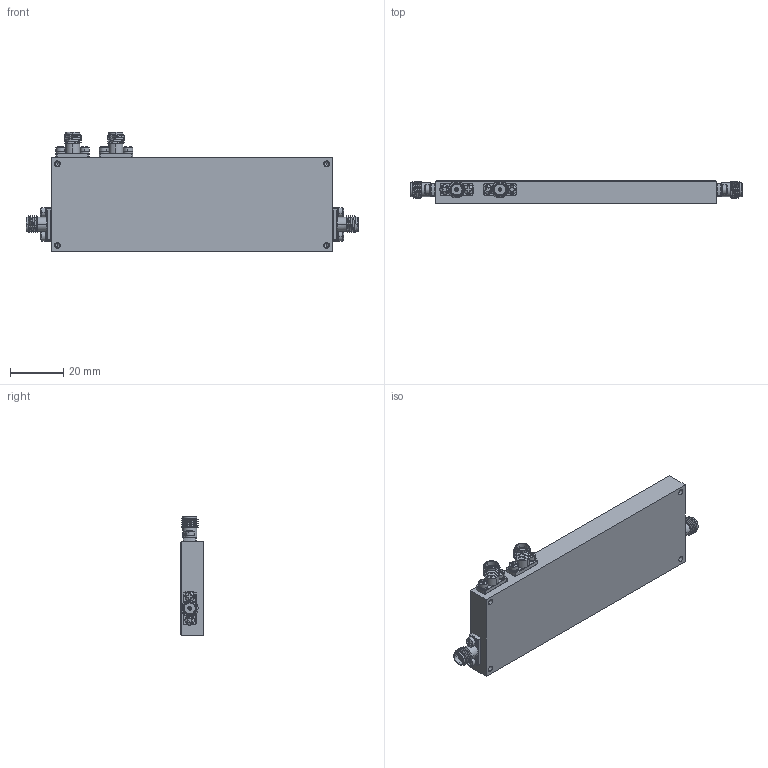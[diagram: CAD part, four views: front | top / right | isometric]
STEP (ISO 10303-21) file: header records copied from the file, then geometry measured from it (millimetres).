
FILE_DESCRIPTION (( 'STEP AP214' ), '1' );
FILE_NAME ('PTP-1G18G-2G8G-55-S4F.STEP', '2025-07-15T12:08:34', ( '' ), ( '' ), 'SwSTEP 2.0', 'SolidWorks 2024', '' );
FILE_SCHEMA (( 'AUTOMOTIVE_DESIGN' ));
Length unit declared in the file: inch
Products named in the file (1): PTP-1G18G-2G8G-55-S4F
Bounding box: 125.12 x 8.56 x 44.96 mm (x, y, z)
Volume: 33293.7 mm3; surface area: 19830.4 mm2
Topology: 34 solids, 34 shells, 1004 faces, 3473 edges, 2685 vertices
Faces by surface type: plane 444, cylinder 256, torus 168, cone 80, sphere 48, bspline 8
Entity records: 53042 total; most frequent: CARTESIAN_POINT 17092, ORIENTED_EDGE 6834, DIRECTION 5750, EDGE_CURVE 3417, VERTEX_POINT 2685, AXIS2_PLACEMENT_3D 2093, VECTOR 1564, LINE 1564
